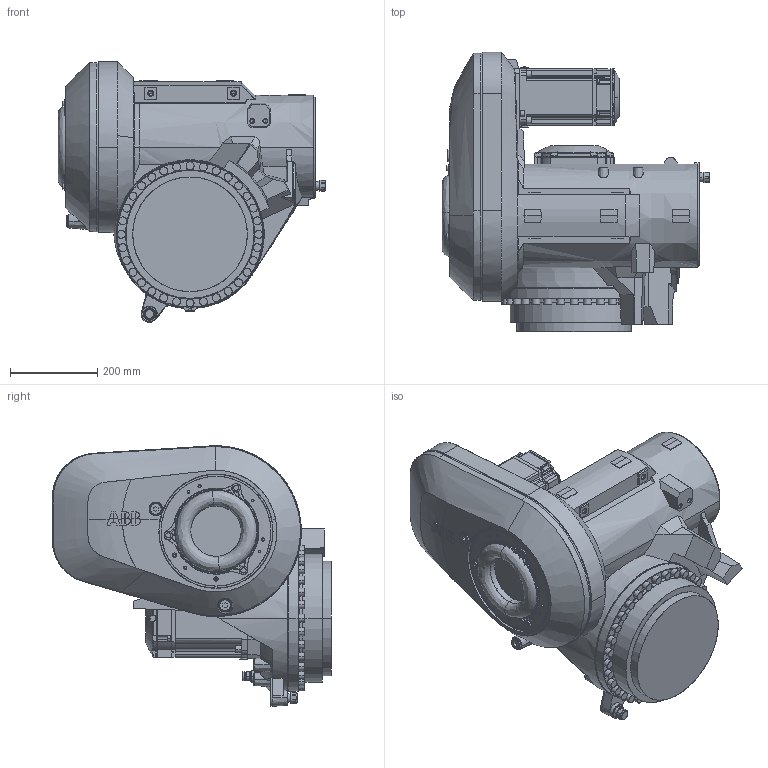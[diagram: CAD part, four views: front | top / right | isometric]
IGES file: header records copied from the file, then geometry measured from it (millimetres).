
Start section: SolidWorks IGES file using analytic representation for surfaces
Global section: file name: C:\Data\SAP_DOC\IRB6740_lightweight\6740_ASM\IRB6740_310kg-280_OC_02_SW_J\IRB6740_310kg-280_OC_02_IGES_J\IRB6740_310kg-280_OC_00_LINK03_CAD.igs; native system: SolidWorks 2024; preprocessor: SolidWorks 2024; author: SEJAOLS6; date: 260506.155150; units: millimetre
Bounding box: 615 x 640 x 597.82 mm (x, y, z)
Surface area: 1917150.7 mm2 (no closed solid volume)
Topology: 0 solids, 0 shells, 1912 faces, 24505 edges, 24463 vertices
Faces by surface type: bspline 1116, revolution 796
